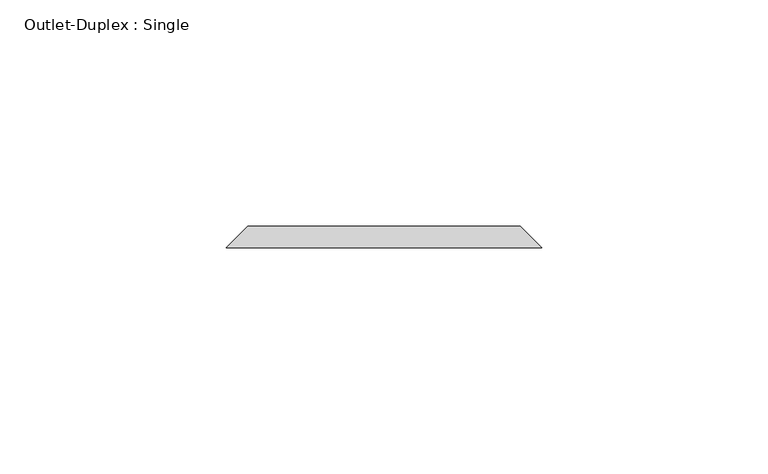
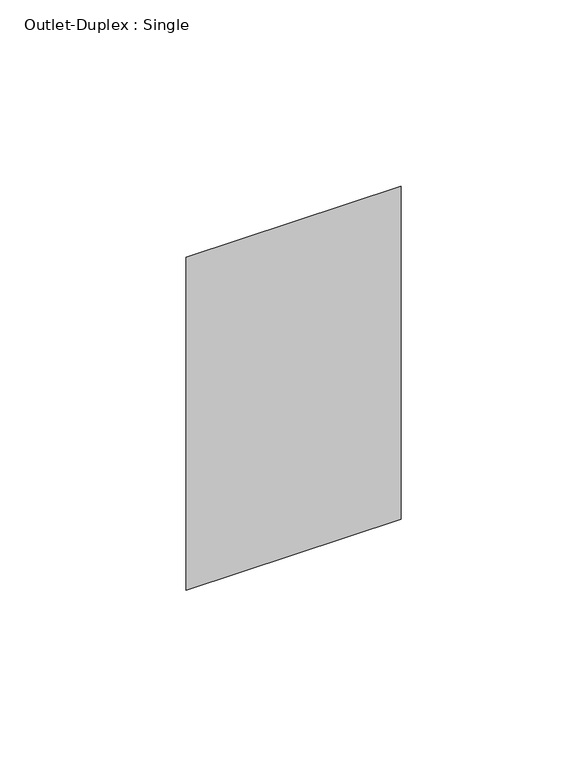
"""IFC4 building model written with IfcOpenShell, lengths in millimetres: proxy geometry, Outlet-Duplex : Single."""

from ifc_helpers import new_model, si_unit, origin, place, context, project, spatial, faceted_brep, source, transform, mapped, element, save


def outlet_duplex_single_b6c2167a(model_context):
    return source(origin(), model_context, "Body", "Brep", [
        faceted_brep([(-30.1625, 66.675, 357.1875), (30.1625, 66.675, 357.1875), (30.1625, 66.675, 252.4125), (-30.1625, 66.675, 252.4125), (-34.925, 61.9125, 361.95), (-34.925, 61.9125, 247.65), (34.925, 61.9125, 247.65), (34.925, 61.9125, 361.95)], [[[0, 1, 2, 3]], [[4, 5, 6, 7]], [[4, 7, 1, 0]], [[7, 6, 2, 1]], [[6, 5, 3, 2]], [[5, 4, 0, 3]]]),
    ])


if __name__ == "__main__":
    model = new_model("IFC4")
    model_context = context("Model", 3, world=origin())
    ifc_project = project(units=[si_unit("LENGTHUNIT", "METRE", prefix="MILLI")], contexts=[model_context])
    site = spatial("IfcSite", under=ifc_project)
    building = spatial("IfcBuilding", under=site)
    placement = place(None, origin())
    outlet_duplex_single_shape = outlet_duplex_single_b6c2167a(model_context)
    element("IfcBuildingElementProxy", 1, Name="Outlet-Duplex : Single", ObjectType="Outlet-Duplex : Single", at=placement, inside=building, context=model_context, shape_type="MappedRepresentation", body=[
        mapped(outlet_duplex_single_shape, transform((0.0, 0.0, 0.0), x_axis=(1.0, 0.0, 0.0), y_axis=(0.0, 1.0, 0.0), z_axis=(0.0, 0.0, 1.0))),
    ])
    save(model, "model.ifc")
